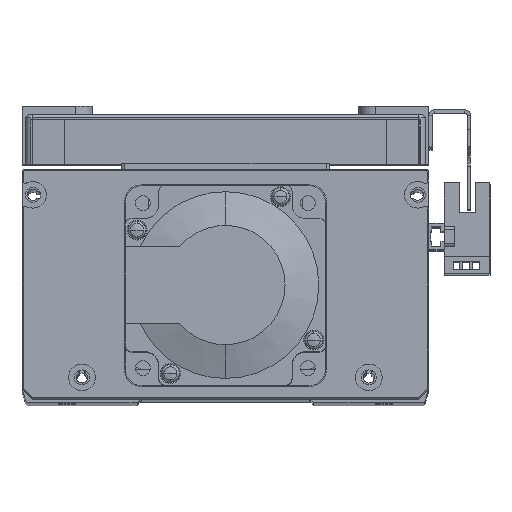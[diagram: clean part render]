
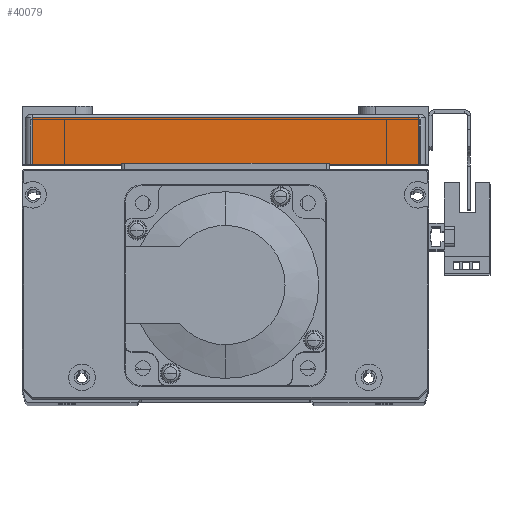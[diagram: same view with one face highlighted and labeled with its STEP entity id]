
A CAD part, top view. The second image highlights one B-rep face of the part: STEP entity #40079.
In plain terms, the highlighted planar face has unit normal (0, 0, 1) as drawn and (1, 0, 0) by its records, which use the part's own axes.
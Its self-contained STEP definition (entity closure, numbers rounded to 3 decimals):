
#1350 = CARTESIAN_POINT ( 'NONE',  ( 82.5, 0., -58. ) ) ;
#1381 = CARTESIAN_POINT ( 'NONE',  ( 82.5, 14., -58. ) ) ;
#1391 = CARTESIAN_POINT ( 'NONE',  ( 82.5, 0., 58. ) ) ;
#1399 = CARTESIAN_POINT ( 'NONE',  ( 82.5, 14., 58. ) ) ;
#8548 = EDGE_LOOP ( 'NONE', ( #47950, #47875, #47970, #47882 ) ) ;
#15190 = LINE ( 'NONE', #17235, #15223 ) ;
#15221 = LINE ( 'NONE', #17297, #15268 ) ;
#15223 = VECTOR ( 'NONE', #17195, 1000. ) ;
#15268 = VECTOR ( 'NONE', #17328, 1000. ) ;
#16369 = EDGE_CURVE ( 'NONE', #55049, #55006, #15190, .T. ) ;
#16386 = EDGE_CURVE ( 'NONE', #55053, #55012, #15221, .T. ) ;
#17195 = DIRECTION ( 'NONE',  ( 0., 0., 1. ) ) ;
#17235 = CARTESIAN_POINT ( 'NONE',  ( 82.5, 14., 58. ) ) ;
#17297 = CARTESIAN_POINT ( 'NONE',  ( 82.5, 0., -60. ) ) ;
#17328 = DIRECTION ( 'NONE',  ( 0., 0., -1. ) ) ;
#22179 = FACE_OUTER_BOUND ( 'NONE', #8548, .T. ) ;
#23215 = LINE ( 'NONE', #23271, #23253 ) ;
#23245 = VECTOR ( 'NONE', #23282, 1000. ) ;
#23248 = LINE ( 'NONE', #23264, #23245 ) ;
#23253 = VECTOR ( 'NONE', #23270, 1000. ) ;
#23264 = CARTESIAN_POINT ( 'NONE',  ( 82.5, 15., 58. ) ) ;
#23270 = DIRECTION ( 'NONE',  ( 0., 1., 0. ) ) ;
#23271 = CARTESIAN_POINT ( 'NONE',  ( 82.5, 15., -58. ) ) ;
#23282 = DIRECTION ( 'NONE',  ( 0., -1., 0. ) ) ;
#27743 = AXIS2_PLACEMENT_3D ( 'NONE', #29432, #29421, #29402 ) ;
#29402 = DIRECTION ( 'NONE',  ( 0., 0., 1. ) ) ;
#29421 = DIRECTION ( 'NONE',  ( -1., 0., 0. ) ) ;
#29430 = PLANE ( 'NONE',  #27743 ) ;
#29432 = CARTESIAN_POINT ( 'NONE',  ( 82.5, 15., -60. ) ) ;
#40079 = ADVANCED_FACE ( 'NONE', ( #22179 ), #29430, .F. ) ;
#40677 = EDGE_CURVE ( 'NONE', #55012, #55049, #23215, .T. ) ;
#40678 = EDGE_CURVE ( 'NONE', #55006, #55053, #23248, .T. ) ;
#47875 = ORIENTED_EDGE ( 'NONE', *, *, #16369, .T. ) ;
#47882 = ORIENTED_EDGE ( 'NONE', *, *, #16386, .T. ) ;
#47950 = ORIENTED_EDGE ( 'NONE', *, *, #40677, .T. ) ;
#47970 = ORIENTED_EDGE ( 'NONE', *, *, #40678, .T. ) ;
#55006 = VERTEX_POINT ( 'NONE', #1399 ) ;
#55012 = VERTEX_POINT ( 'NONE', #1350 ) ;
#55049 = VERTEX_POINT ( 'NONE', #1381 ) ;
#55053 = VERTEX_POINT ( 'NONE', #1391 ) ;
